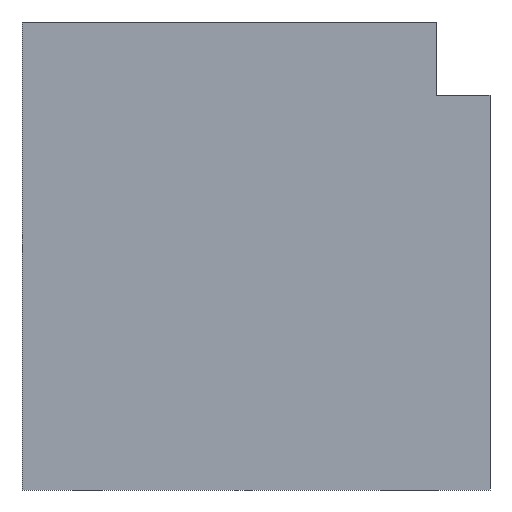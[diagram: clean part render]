
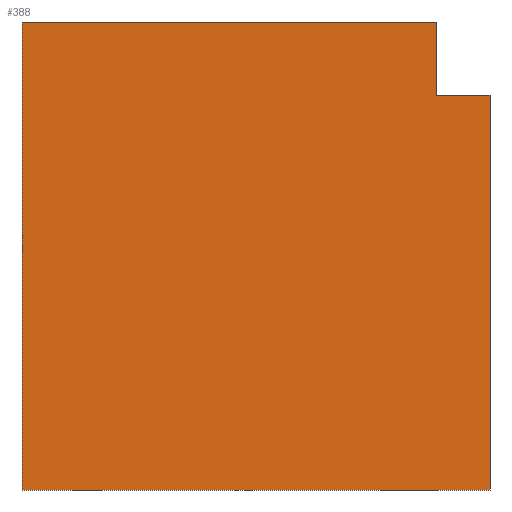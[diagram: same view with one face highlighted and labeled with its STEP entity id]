
A CAD part, front view. The second image highlights one B-rep face of the part: STEP entity #388.
In plain terms, the highlighted planar face has unit normal (0, -1, 0).
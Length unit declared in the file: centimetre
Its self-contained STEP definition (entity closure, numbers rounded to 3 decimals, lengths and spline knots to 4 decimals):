
#26 = ORIENTED_EDGE ( 'NONE', *, *, #615, .T. ) ;
#36 = CARTESIAN_POINT ( 'NONE',  ( 0., 0., 1000. ) ) ;
#43 = VERTEX_POINT ( 'NONE', #307 ) ;
#55 = LINE ( 'NONE', #518, #546 ) ;
#60 = DIRECTION ( 'NONE',  ( 0., 0., 1. ) ) ;
#68 = DIRECTION ( 'NONE',  ( 1., 0., 0. ) ) ;
#85 = DIRECTION ( 'NONE',  ( -1., 0., 0. ) ) ;
#104 = VERTEX_POINT ( 'NONE', #1490 ) ;
#154 = CARTESIAN_POINT ( 'NONE',  ( 0., 0., 0. ) ) ;
#246 = EDGE_CURVE ( 'NONE', #104, #43, #732, .T. ) ;
#250 = VERTEX_POINT ( 'NONE', #616 ) ;
#284 = CARTESIAN_POINT ( 'NONE',  ( 0., 0., 0. ) ) ;
#290 = ORIENTED_EDGE ( 'NONE', *, *, #796, .T. ) ;
#303 = ORIENTED_EDGE ( 'NONE', *, *, #347, .T. ) ;
#307 = CARTESIAN_POINT ( 'NONE',  ( 1000., 0., 0. ) ) ;
#343 = VERTEX_POINT ( 'NONE', #154 ) ;
#347 = EDGE_CURVE ( 'NONE', #343, #43, #747, .T. ) ;
#383 = EDGE_LOOP ( 'NONE', ( #290, #614, #528, #26, #303, #1475 ) ) ;
#388 = ADVANCED_FACE ( 'NONE', ( #1430 ), #625, .F. ) ;
#390 = VECTOR ( 'NONE', #863, 100. ) ;
#395 = LINE ( 'NONE', #36, #1010 ) ;
#493 = CARTESIAN_POINT ( 'NONE',  ( 0., 0., 1000. ) ) ;
#499 = CARTESIAN_POINT ( 'NONE',  ( 885.8287, 0., 843.1838 ) ) ;
#518 = CARTESIAN_POINT ( 'NONE',  ( 0., 0., 1000. ) ) ;
#528 = ORIENTED_EDGE ( 'NONE', *, *, #934, .F. ) ;
#544 = VERTEX_POINT ( 'NONE', #493 ) ;
#546 = VECTOR ( 'NONE', #1406, 100. ) ;
#576 = VECTOR ( 'NONE', #1418, 100. ) ;
#614 = ORIENTED_EDGE ( 'NONE', *, *, #1005, .T. ) ;
#615 = EDGE_CURVE ( 'NONE', #544, #343, #55, .T. ) ;
#616 = CARTESIAN_POINT ( 'NONE',  ( 885.8287, 0., 1000. ) ) ;
#625 = PLANE ( 'NONE',  #1448 ) ;
#732 = LINE ( 'NONE', #1188, #390 ) ;
#747 = LINE ( 'NONE', #284, #831 ) ;
#795 = VECTOR ( 'NONE', #85, 100. ) ;
#796 = EDGE_CURVE ( 'NONE', #104, #1493, #1338, .T. ) ;
#831 = VECTOR ( 'NONE', #68, 100. ) ;
#839 = DIRECTION ( 'NONE',  ( 1., 0., 0. ) ) ;
#863 = DIRECTION ( 'NONE',  ( 0., 0., -1. ) ) ;
#934 = EDGE_CURVE ( 'NONE', #544, #250, #395, .T. ) ;
#1005 = EDGE_CURVE ( 'NONE', #1493, #250, #1080, .T. ) ;
#1010 = VECTOR ( 'NONE', #839, 100. ) ;
#1077 = CARTESIAN_POINT ( 'NONE',  ( 0., 0., 1000. ) ) ;
#1080 = LINE ( 'NONE', #499, #576 ) ;
#1099 = CARTESIAN_POINT ( 'NONE',  ( 885.8287, 0., 843.1838 ) ) ;
#1188 = CARTESIAN_POINT ( 'NONE',  ( 1000., 0., 1000. ) ) ;
#1246 = CARTESIAN_POINT ( 'NONE',  ( 885.8287, 0., 843.1838 ) ) ;
#1321 = DIRECTION ( 'NONE',  ( 0., 1., 0. ) ) ;
#1338 = LINE ( 'NONE', #1246, #795 ) ;
#1406 = DIRECTION ( 'NONE',  ( 0., 0., -1. ) ) ;
#1418 = DIRECTION ( 'NONE',  ( 0., 0., 1. ) ) ;
#1430 = FACE_OUTER_BOUND ( 'NONE', #383, .T. ) ;
#1448 = AXIS2_PLACEMENT_3D ( 'NONE', #1077, #1321, #60 ) ;
#1475 = ORIENTED_EDGE ( 'NONE', *, *, #246, .F. ) ;
#1490 = CARTESIAN_POINT ( 'NONE',  ( 1000., 0., 843.1838 ) ) ;
#1493 = VERTEX_POINT ( 'NONE', #1099 ) ;
